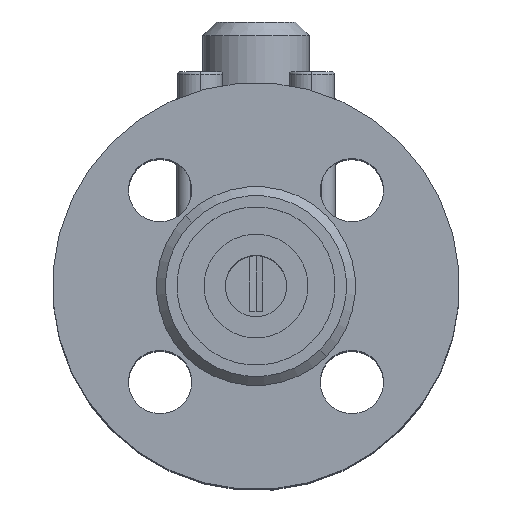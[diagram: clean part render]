
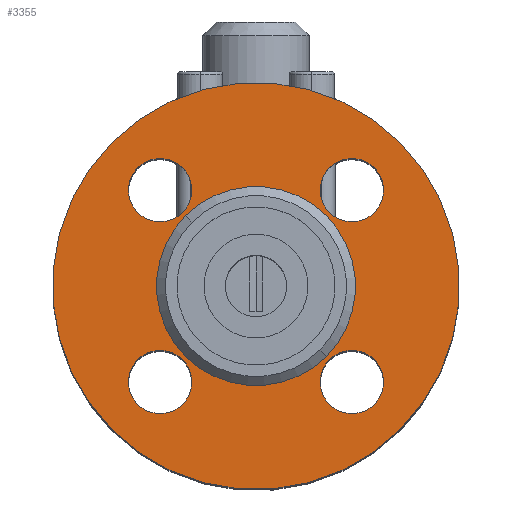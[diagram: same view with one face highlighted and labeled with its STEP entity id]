
A CAD part, top view. The second image highlights one B-rep face of the part: STEP entity #3355.
In plain terms, the highlighted planar face has unit normal (0, 0, 1) as drawn and (0, -1, 0) by its records, which use the part's own axes.
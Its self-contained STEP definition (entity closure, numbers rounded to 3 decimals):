
#16446 = ORIENTED_EDGE ( 'NONE', *, *, #16118, .T. ) ;
#342 = CIRCLE ( 'NONE', #343, 7. ) ;
#343 = AXIS2_PLACEMENT_3D ( 'NONE', #344, #345, #346 ) ;
#344 = CARTESIAN_POINT ( 'NONE',  ( 0., 2., -30. ) ) ;
#345 = DIRECTION ( 'NONE',  ( 0., 1., 0. ) ) ;
#346 = DIRECTION ( 'NONE',  ( -1., 0., 0. ) ) ;
#503 = CARTESIAN_POINT ( 'NONE',  ( 45., 2., 0. ) ) ;
#510 = VERTEX_POINT ( 'NONE', #18525 ) ;
#515 = CIRCLE ( 'NONE', #516, 22. ) ;
#516 = AXIS2_PLACEMENT_3D ( 'NONE', #517, #518, #519 ) ;
#517 = CARTESIAN_POINT ( 'NONE',  ( 0., 2., 0. ) ) ;
#518 = DIRECTION ( 'NONE',  ( 0., 1., 0. ) ) ;
#519 = DIRECTION ( 'NONE',  ( -1., 0., 0. ) ) ;
#17235 = EDGE_CURVE ( 'NONE', #18163, #17984, #18884, .T. ) ;
#17289 = EDGE_LOOP ( 'NONE', ( #16446, #1209 ) ) ;
#924 = VERTEX_POINT ( 'NONE', #19178 ) ;
#17524 = ORIENTED_EDGE ( 'NONE', *, *, #1265, .T. ) ;
#1209 = ORIENTED_EDGE ( 'NONE', *, *, #9603, .T. ) ;
#1265 = EDGE_CURVE ( 'NONE', #924, #510, #342, .T. ) ;
#17984 = VERTEX_POINT ( 'NONE', #4698 ) ;
#18034 = EDGE_CURVE ( 'NONE', #510, #924, #4774, .T. ) ;
#18163 = VERTEX_POINT ( 'NONE', #5180 ) ;
#1941 = ORIENTED_EDGE ( 'NONE', *, *, #10664, .T. ) ;
#18525 = CARTESIAN_POINT ( 'NONE',  ( -7., 2., -30. ) ) ;
#18586 = ORIENTED_EDGE ( 'NONE', *, *, #18034, .T. ) ;
#2400 = ORIENTED_EDGE ( 'NONE', *, *, #6106, .T. ) ;
#2476 = EDGE_CURVE ( 'NONE', #6032, #6252, #3173, .T. ) ;
#18884 = CIRCLE ( 'NONE', #18885, 7. ) ;
#18885 = AXIS2_PLACEMENT_3D ( 'NONE', #18886, #18887, #18888 ) ;
#18886 = CARTESIAN_POINT ( 'NONE',  ( 0., 2., 30. ) ) ;
#18887 = DIRECTION ( 'NONE',  ( 0., 1., 0. ) ) ;
#18888 = DIRECTION ( 'NONE',  ( -1., 0., 0. ) ) ;
#19178 = CARTESIAN_POINT ( 'NONE',  ( 7., 2., -30. ) ) ;
#2871 = EDGE_LOOP ( 'NONE', ( #3244, #12060 ) ) ;
#3173 = CIRCLE ( 'NONE', #3174, 7. ) ;
#3174 = AXIS2_PLACEMENT_3D ( 'NONE', #3175, #3176, #3177 ) ;
#3175 = CARTESIAN_POINT ( 'NONE',  ( 30., 2., 0. ) ) ;
#3176 = DIRECTION ( 'NONE',  ( 0., 1., 0. ) ) ;
#3177 = DIRECTION ( 'NONE',  ( -1., 0., 0. ) ) ;
#3223 = EDGE_LOOP ( 'NONE', ( #18586, #17524 ) ) ;
#3244 = ORIENTED_EDGE ( 'NONE', *, *, #2476, .T. ) ;
#3355 = ADVANCED_FACE ( 'NONE', ( #3955, #3956, #3957, #3961, #3962, #3963 ), #3964, .F. ) ;
#19743 = EDGE_LOOP ( 'NONE', ( #9152, #12129 ) ) ;
#3731 = CIRCLE ( 'NONE', #3732, 7. ) ;
#3732 = AXIS2_PLACEMENT_3D ( 'NONE', #3733, #3734, #3735 ) ;
#3733 = CARTESIAN_POINT ( 'NONE',  ( 0., 2., 30. ) ) ;
#3734 = DIRECTION ( 'NONE',  ( 0., 1., 0. ) ) ;
#3735 = DIRECTION ( 'NONE',  ( -1., 0., 0. ) ) ;
#3955 = FACE_BOUND ( 'NONE', #3223, .T. ) ;
#3956 = FACE_BOUND ( 'NONE', #17289, .T. ) ;
#3957 = FACE_BOUND ( 'NONE', #19743, .T. ) ;
#3961 = FACE_BOUND ( 'NONE', #2871, .T. ) ;
#3962 = FACE_OUTER_BOUND ( 'NONE', #11820, .T. ) ;
#3963 = FACE_BOUND ( 'NONE', #8215, .T. ) ;
#3964 = PLANE ( 'NONE',  #3965 ) ;
#3965 = AXIS2_PLACEMENT_3D ( 'NONE', #3966, #3967, #3968 ) ;
#3966 = CARTESIAN_POINT ( 'NONE',  ( 22., 2., 0. ) ) ;
#3967 = DIRECTION ( 'NONE',  ( 0., 1., 0. ) ) ;
#3968 = DIRECTION ( 'NONE',  ( -1., 0., 0. ) ) ;
#4015 = VERTEX_POINT ( 'NONE', #4613 ) ;
#4612 = CARTESIAN_POINT ( 'NONE',  ( -45., 2., 0. ) ) ;
#4613 = CARTESIAN_POINT ( 'NONE',  ( 22., 2., 0. ) ) ;
#4698 = CARTESIAN_POINT ( 'NONE',  ( -7., 2., 30. ) ) ;
#4765 = EDGE_CURVE ( 'NONE', #8448, #8663, #7391, .T. ) ;
#4774 = CIRCLE ( 'NONE', #4775, 7. ) ;
#4775 = AXIS2_PLACEMENT_3D ( 'NONE', #4776, #4777, #4778 ) ;
#4776 = CARTESIAN_POINT ( 'NONE',  ( 0., 2., -30. ) ) ;
#4777 = DIRECTION ( 'NONE',  ( 0., 1., 0. ) ) ;
#4778 = DIRECTION ( 'NONE',  ( -1., 0., 0. ) ) ;
#5148 = CIRCLE ( 'NONE', #5153, 45. ) ;
#5153 = AXIS2_PLACEMENT_3D ( 'NONE', #5154, #5155, #5156 ) ;
#5154 = CARTESIAN_POINT ( 'NONE',  ( 0., 2., 0. ) ) ;
#5155 = DIRECTION ( 'NONE',  ( 0., 1., 0. ) ) ;
#5156 = DIRECTION ( 'NONE',  ( -1., 0., 0. ) ) ;
#5180 = CARTESIAN_POINT ( 'NONE',  ( 7., 2., 30. ) ) ;
#5957 = VERTEX_POINT ( 'NONE', #12482 ) ;
#6032 = VERTEX_POINT ( 'NONE', #12540 ) ;
#6106 = EDGE_CURVE ( 'NONE', #5957, #4015, #12586, .T. ) ;
#6252 = VERTEX_POINT ( 'NONE', #13139 ) ;
#6466 = EDGE_CURVE ( 'NONE', #6252, #6032, #13574, .T. ) ;
#6890 = CARTESIAN_POINT ( 'NONE',  ( -37., 2., 0. ) ) ;
#7359 = CARTESIAN_POINT ( 'NONE',  ( -23., 2., 0. ) ) ;
#7391 = CIRCLE ( 'NONE', #7392, 45. ) ;
#7392 = AXIS2_PLACEMENT_3D ( 'NONE', #7393, #7394, #7395 ) ;
#7393 = CARTESIAN_POINT ( 'NONE',  ( 0., 2., 0. ) ) ;
#7394 = DIRECTION ( 'NONE',  ( 0., 1., 0. ) ) ;
#7395 = DIRECTION ( 'NONE',  ( -1., 0., 0. ) ) ;
#8215 = EDGE_LOOP ( 'NONE', ( #2400, #1941 ) ) ;
#8448 = VERTEX_POINT ( 'NONE', #503 ) ;
#8449 = ORIENTED_EDGE ( 'NONE', *, *, #4765, .F. ) ;
#8663 = VERTEX_POINT ( 'NONE', #4612 ) ;
#8879 = EDGE_CURVE ( 'NONE', #8663, #8448, #5148, .T. ) ;
#8917 = ORIENTED_EDGE ( 'NONE', *, *, #8879, .F. ) ;
#9152 = ORIENTED_EDGE ( 'NONE', *, *, #12349, .T. ) ;
#9174 = VERTEX_POINT ( 'NONE', #6890 ) ;
#9385 = VERTEX_POINT ( 'NONE', #7359 ) ;
#9603 = EDGE_CURVE ( 'NONE', #9385, #9174, #10358, .T. ) ;
#10358 = CIRCLE ( 'NONE', #10359, 7. ) ;
#10359 = AXIS2_PLACEMENT_3D ( 'NONE', #10365, #10366, #10367 ) ;
#10365 = CARTESIAN_POINT ( 'NONE',  ( -30., 2., 0. ) ) ;
#10366 = DIRECTION ( 'NONE',  ( 0., 1., 0. ) ) ;
#10367 = DIRECTION ( 'NONE',  ( -1., 0., 0. ) ) ;
#10664 = EDGE_CURVE ( 'NONE', #4015, #5957, #515, .T. ) ;
#11820 = EDGE_LOOP ( 'NONE', ( #8917, #8449 ) ) ;
#12060 = ORIENTED_EDGE ( 'NONE', *, *, #6466, .T. ) ;
#12129 = ORIENTED_EDGE ( 'NONE', *, *, #17235, .T. ) ;
#12349 = EDGE_CURVE ( 'NONE', #17984, #18163, #3731, .T. ) ;
#12482 = CARTESIAN_POINT ( 'NONE',  ( -22., 2., 0. ) ) ;
#12540 = CARTESIAN_POINT ( 'NONE',  ( 23., 2., 0. ) ) ;
#12586 = CIRCLE ( 'NONE', #12587, 22. ) ;
#12587 = AXIS2_PLACEMENT_3D ( 'NONE', #12588, #12589, #12590 ) ;
#12588 = CARTESIAN_POINT ( 'NONE',  ( 0., 2., 0. ) ) ;
#12589 = DIRECTION ( 'NONE',  ( 0., 1., 0. ) ) ;
#12590 = DIRECTION ( 'NONE',  ( -1., 0., 0. ) ) ;
#13139 = CARTESIAN_POINT ( 'NONE',  ( 37., 2., 0. ) ) ;
#13574 = CIRCLE ( 'NONE', #13575, 7. ) ;
#13575 = AXIS2_PLACEMENT_3D ( 'NONE', #13576, #13577, #13578 ) ;
#13576 = CARTESIAN_POINT ( 'NONE',  ( 30., 2., 0. ) ) ;
#13577 = DIRECTION ( 'NONE',  ( 0., 1., 0. ) ) ;
#13578 = DIRECTION ( 'NONE',  ( -1., 0., 0. ) ) ;
#14023 = CIRCLE ( 'NONE', #14024, 7. ) ;
#14024 = AXIS2_PLACEMENT_3D ( 'NONE', #14025, #14026, #14027 ) ;
#14025 = CARTESIAN_POINT ( 'NONE',  ( -30., 2., 0. ) ) ;
#14026 = DIRECTION ( 'NONE',  ( 0., 1., 0. ) ) ;
#14027 = DIRECTION ( 'NONE',  ( -1., 0., 0. ) ) ;
#16118 = EDGE_CURVE ( 'NONE', #9174, #9385, #14023, .T. ) ;
